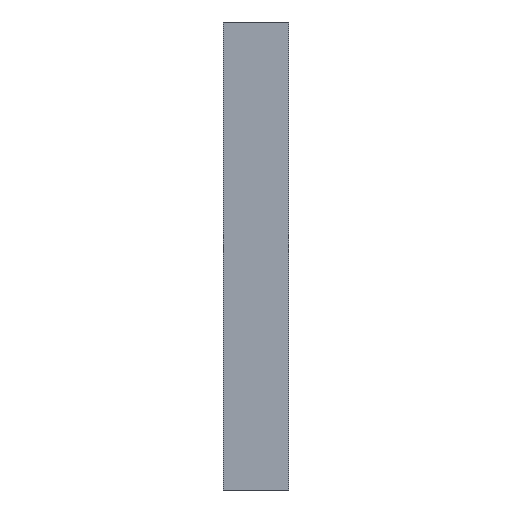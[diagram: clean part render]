
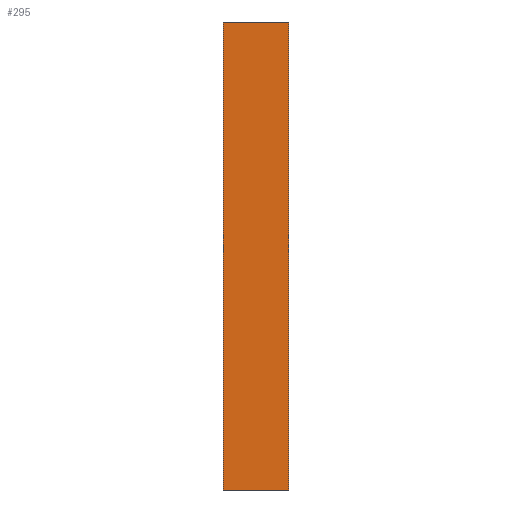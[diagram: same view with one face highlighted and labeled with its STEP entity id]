
A CAD part, left-side view. The second image highlights one B-rep face of the part: STEP entity #295.
In plain terms, the highlighted planar face has unit normal (-1, 0, 0).
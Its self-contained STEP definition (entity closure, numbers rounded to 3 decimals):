
#161 = ORIENTED_EDGE ( 'NONE', *, *, #162, .T. ) ;
#162 = EDGE_CURVE ( 'NONE', #165, #319, #612, .T. ) ;
#164 = EDGE_CURVE ( 'NONE', #312, #165, #603, .T. ) ;
#165 = VERTEX_POINT ( 'NONE', #619 ) ;
#202 = ORIENTED_EDGE ( 'NONE', *, *, #293, .F. ) ;
#293 = EDGE_CURVE ( 'NONE', #312, #318, #903, .T. ) ;
#294 = ORIENTED_EDGE ( 'NONE', *, *, #164, .T. ) ;
#295 = ADVANCED_FACE ( 'NONE', ( #899 ), #898, .T. ) ;
#296 = EDGE_LOOP ( 'NONE', ( #316, #202, #294, #161 ) ) ;
#312 = VERTEX_POINT ( 'NONE', #972 ) ;
#316 = ORIENTED_EDGE ( 'NONE', *, *, #317, .F. ) ;
#317 = EDGE_CURVE ( 'NONE', #318, #319, #966, .T. ) ;
#318 = VERTEX_POINT ( 'NONE', #967 ) ;
#319 = VERTEX_POINT ( 'NONE', #962 ) ;
#602 = CARTESIAN_POINT ( 'NONE',  ( -80., -15., -53.5 ) ) ;
#603 = LINE ( 'NONE', #602, #621 ) ;
#604 = DIRECTION ( 'NONE',  ( 0., 1., 0. ) ) ;
#605 = VECTOR ( 'NONE', #604, 1000. ) ;
#606 = CARTESIAN_POINT ( 'NONE',  ( -80., -15., 53.5 ) ) ;
#612 = LINE ( 'NONE', #606, #605 ) ;
#619 = CARTESIAN_POINT ( 'NONE',  ( -80., -15., 53.5 ) ) ;
#620 = DIRECTION ( 'NONE',  ( 0., 0., 1. ) ) ;
#621 = VECTOR ( 'NONE', #620, 1000. ) ;
#894 = DIRECTION ( 'NONE',  ( 0., 0., 1. ) ) ;
#895 = DIRECTION ( 'NONE',  ( -1., 0., 0. ) ) ;
#896 = CARTESIAN_POINT ( 'NONE',  ( -80., -15., -53.5 ) ) ;
#897 = AXIS2_PLACEMENT_3D ( 'NONE', #896, #895, #894 ) ;
#898 = PLANE ( 'NONE',  #897 ) ;
#899 = FACE_OUTER_BOUND ( 'NONE', #296, .T. ) ;
#900 = DIRECTION ( 'NONE',  ( 0., 1., 0. ) ) ;
#901 = VECTOR ( 'NONE', #900, 1000. ) ;
#902 = CARTESIAN_POINT ( 'NONE',  ( -80., -15., -53.5 ) ) ;
#903 = LINE ( 'NONE', #902, #901 ) ;
#962 = CARTESIAN_POINT ( 'NONE',  ( -80., 0., 53.5 ) ) ;
#963 = DIRECTION ( 'NONE',  ( 0., 0., 1. ) ) ;
#964 = VECTOR ( 'NONE', #963, 1000. ) ;
#965 = CARTESIAN_POINT ( 'NONE',  ( -80., 0., -53.5 ) ) ;
#966 = LINE ( 'NONE', #965, #964 ) ;
#967 = CARTESIAN_POINT ( 'NONE',  ( -80., 0., -53.5 ) ) ;
#972 = CARTESIAN_POINT ( 'NONE',  ( -80., -15., -53.5 ) ) ;
